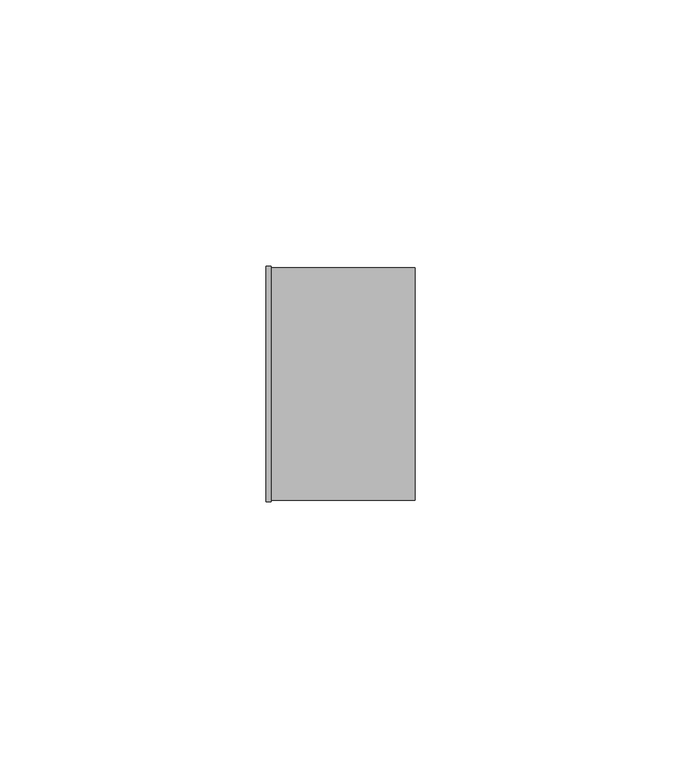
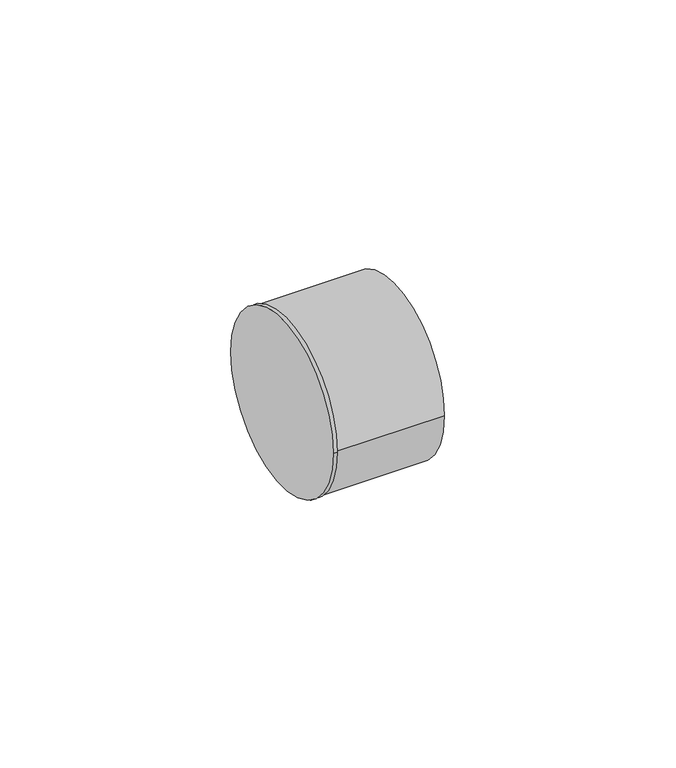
"""IFC4 building model written with IfcOpenShell, lengths in millimetres: pipe fitting geometry, Bucha de redução reta - Soldada - CU : Padrão."""

from ifc_helpers import new_model, si_unit, frame, origin, place, context, project, spatial, circle_curve, source, transform, mapped, element, save
from ifc_brep_helpers import plane_surface, cylinder_surface, advanced_brep


def pipe_fitting_03ed5a55(model_context):
    return source(origin(), model_context, "Body", "AdvancedBrep", [
        advanced_brep(
        [(0.0, -22.15, 0.0), (0.0, 22.15, 0.0), (1.0, -22.15, 0.0), (1.0, 22.15, 0.0), (1.0, -21.86, 0.0), (1.0, 21.86, 0.0), (28.0, -21.86, 0.0), (28.0, 21.86, 0.0)],
        [
            (0, 1, circle_curve(frame((0.0, 0.0, 0.0), z_axis=(-1.0, 0.0, 0.0), x_axis=(0.0, 1.0, 0.0)), 22.15)),
            (1, 0, circle_curve(frame((0.0, 0.0, 0.0), z_axis=(-1.0, 0.0, 0.0), x_axis=(0.0, 1.0, 0.0)), 22.15)),
            (2, 3, circle_curve(frame((1.0, 0.0, 0.0), z_axis=(1.0, 0.0, 0.0), x_axis=(0.0, 1.0, 0.0)), 22.15)),
            (3, 2, circle_curve(frame((1.0, 0.0, 0.0), z_axis=(1.0, 0.0, 0.0), x_axis=(0.0, 1.0, 0.0)), 22.15)),
            (4, 5, circle_curve(frame((1.0, 0.0, 0.0), z_axis=(-1.0, 0.0, 0.0), x_axis=(0.0, 1.0, 0.0)), 21.86)),
            (5, 4, circle_curve(frame((1.0, 0.0, 0.0), z_axis=(-1.0, 0.0, 0.0), x_axis=(0.0, 1.0, 0.0)), 21.86)),
            (0, 2),
            (3, 1),
            (6, 7, circle_curve(frame((28.0, 0.0, 0.0), z_axis=(1.0, 0.0, 0.0), x_axis=(0.0, 1.0, 0.0)), 21.86)),
            (7, 6, circle_curve(frame((28.0, 0.0, 0.0), z_axis=(1.0, 0.0, 0.0), x_axis=(0.0, 1.0, 0.0)), 21.86)),
            (7, 5),
            (4, 6),
        ],
        [
            plane_surface(frame((0.0, 0.0, 0.0), z_axis=(-1.0, 0.0, 0.0), x_axis=(0.0, 0.0, 1.0))),
            plane_surface(frame((1.0, 0.0, 0.0), z_axis=(1.0, 0.0, 0.0), x_axis=(0.0, 0.0, 1.0))),
            cylinder_surface(frame((0.0, 0.0, 0.0), z_axis=(-1.0, 0.0, 0.0), x_axis=(0.0, 1.0, 0.0)), 22.15),
            plane_surface(frame((28.0, 0.0, 0.0), z_axis=(1.0, 0.0, 0.0), x_axis=(0.0, 0.0, 1.0))),
            cylinder_surface(frame((1.0, 0.0, 0.0), z_axis=(-1.0, 0.0, 0.0), x_axis=(0.0, 1.0, 0.0)), 21.86),
        ],
        [
            (0, [[1, 2]]),
            (1, [[3, 4], [5, 6]]),
            (2, [[-1, 7, -4, 8]]),
            (2, [[-2, -8, -3, -7]]),
            (3, [[9, 10]]),
            (4, [[-10, 11, -5, 12]]),
            (4, [[-9, -12, -6, -11]]),
        ],
    ),
    ])


if __name__ == "__main__":
    model = new_model("IFC4")
    model_context = context("Model", 3, world=origin())
    ifc_project = project(units=[si_unit("LENGTHUNIT", "METRE", prefix="MILLI")], contexts=[model_context])
    site = spatial("IfcSite", under=ifc_project)
    building = spatial("IfcBuilding", under=site)
    placement = place(None, origin())
    pipe_fitting_shape = pipe_fitting_03ed5a55(model_context)
    element("IfcPipeFitting", 1, ObjectType="Bucha de redução reta - Soldada - CU : Padrão", at=placement, inside=building, context=model_context, shape_type="MappedRepresentation", body=[
        mapped(pipe_fitting_shape, transform((0.0, 0.0, 0.0), x_axis=(1.0, 0.0, 0.0), y_axis=(0.0, 1.0, 0.0), z_axis=(0.0, 0.0, 1.0))),
    ])
    save(model, "model.ifc")
